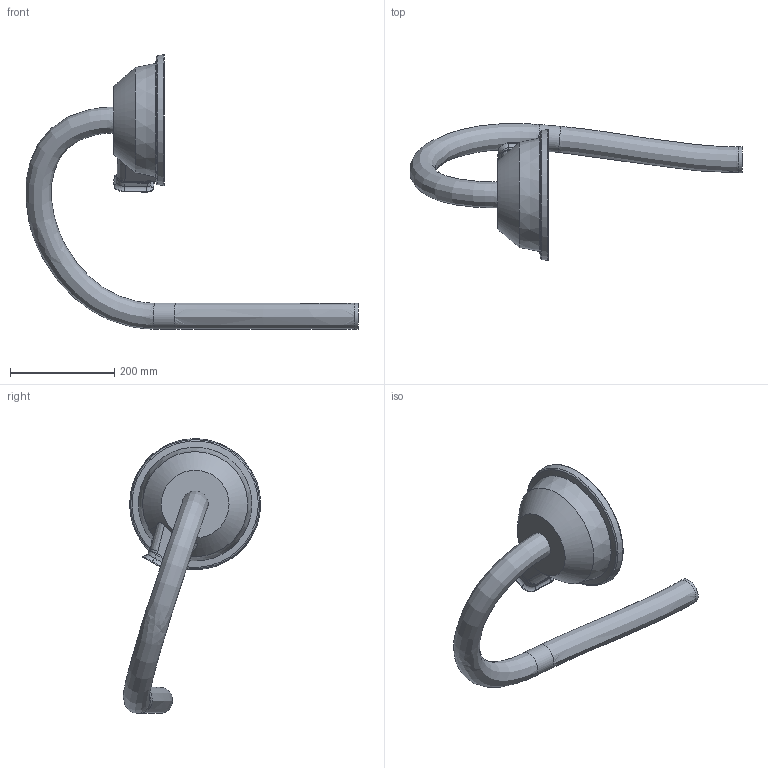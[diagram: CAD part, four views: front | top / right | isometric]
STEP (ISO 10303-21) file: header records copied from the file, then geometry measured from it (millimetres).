
FILE_DESCRIPTION (( 'STEP AP214' ), '1' );
FILE_NAME ('IRB6740-MH3_260kg-300_OC_00_LINK03b_CABLE.step', '2026-05-07T13:29:00', ( '' ), ( '' ), 'SwSTEP 2.0', 'SolidWorks 2024', '' );
FILE_SCHEMA (( 'AUTOMOTIVE_DESIGN' ));
Length unit declared in the file: millimetre
Products named in the file (1): IRB6740-MH3_260kg-300_OC_00_LINK03b_CABLE
Bounding box: 636.18 x 263.24 x 526.62 mm (x, y, z)
Volume: 5170358 mm3; surface area: 306657.3 mm2
Topology: 1 solids, 1 shells, 92 faces, 235 edges, 146 vertices
Faces by surface type: bspline 33, cylinder 20, plane 18, torus 13, cone 8
Full cylindrical faces by diameter (mm): 50 x2
Entity records: 5662 total; most frequent: CARTESIAN_POINT 3830, ORIENTED_EDGE 438, DIRECTION 281, EDGE_CURVE 219, VERTEX_POINT 140, AXIS2_PLACEMENT_3D 116, EDGE_LOOP 101, FACE_OUTER_BOUND 98
